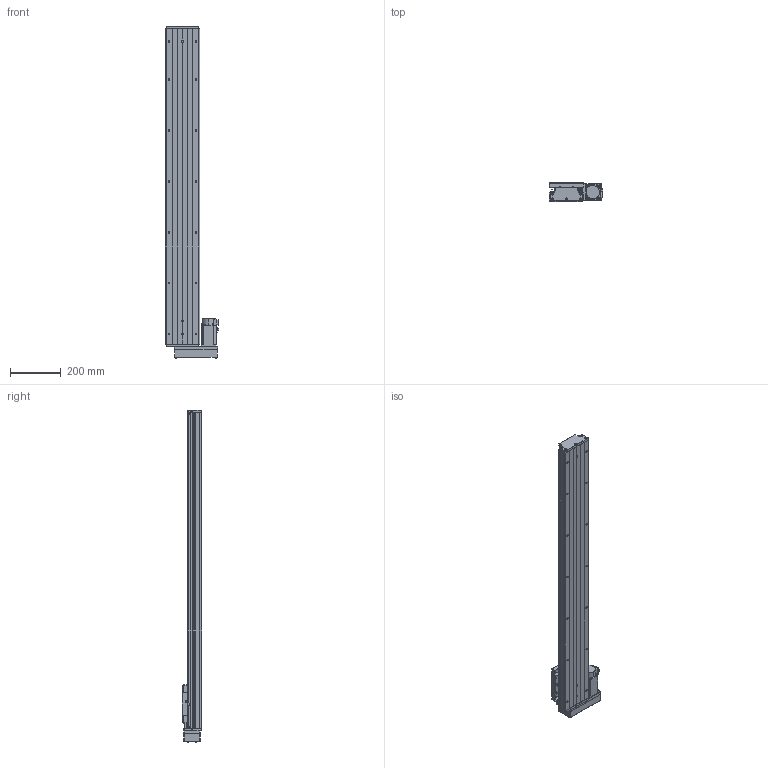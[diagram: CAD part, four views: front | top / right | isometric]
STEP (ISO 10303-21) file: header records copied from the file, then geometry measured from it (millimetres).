
FILE_DESCRIPTION (( 'STEP AP203' ), '1' );
FILE_NAME ('CTH130-1050-BR-M40-C4.step', '2023-06-30T02:49:57', ( '微软用户' ), ( '微软中国' ), 'SwSTEP 2.0', 'SolidWorks 2020', '' );
FILE_SCHEMA (( 'CONFIG_CONTROL_DESIGN' ));
Length unit declared in the file: millimetre
Products named in the file (20): GTH14-001_1050; CTHA60-017; す晦芛蹟隊 M3℅5; CTH130-002_GTH14-002; EE_SX911P_R; HG-KN43J-S100; GB T308.1-2013-6.35; CTHA60-016; GBT 70.2-M4¡Á35_M4¡Á35; GTH14-004; GBT 70.1-M3℅5; GTH14-015-2_CTHA86-015-2; GTH14-005; GBT77-2000 M3×3; GTH14-033; GB1155-6X6; CTH130-031; CTH130-1050-BR-M40-C4; GBT70.1 M5℅16; GBT 70.2-M3¡Á5_M3¡Á6
Assembly tree (60 placements, depth 2):
  CTH130-1050-BR-M40-C4
    GTH14-001_1050
    CTH130-002_GTH14-002
    GB T308.1-2013-6.35  x2
    GTH14-004
    GTH14-005
    GB1155-6X6  x2
    GBT70.1 M5℅16  x10
    CTHA60-017  x3
    EE_SX911P_R  x3
    CTHA60-016  x2
    GBT 70.1-M3℅5  x6
    GBT77-2000 M3×3  x6
    CTH130-031
    GBT 70.2-M3¡Á5_M3¡Á6  x8
    す晦芛蹟隊 M3℅5  x6
    HG-KN43J-S100
    GBT 70.2-M4¡Á35_M4¡Á35  x4
    GTH14-015-2_CTHA86-015-2
    GTH14-033
Bounding box: 209.3 x 76 x 1304.2 mm (x, y, z)
Volume: 6789106.8 mm3; surface area: 1089037.2 mm2
Topology: 63 solids, 63 shells, 2455 faces, 5845 edges, 3617 vertices
Faces by surface type: plane 1314, cylinder 662, cone 299, torus 124, sphere 36, bspline 20
Entity records: 44540 total; most frequent: CARTESIAN_POINT 9947, DIRECTION 6522, ORIENTED_EDGE 6396, EDGE_CURVE 3198, AXIS2_PLACEMENT_3D 2236, VECTOR 2050, LINE 2050, VERTEX_POINT 2027
